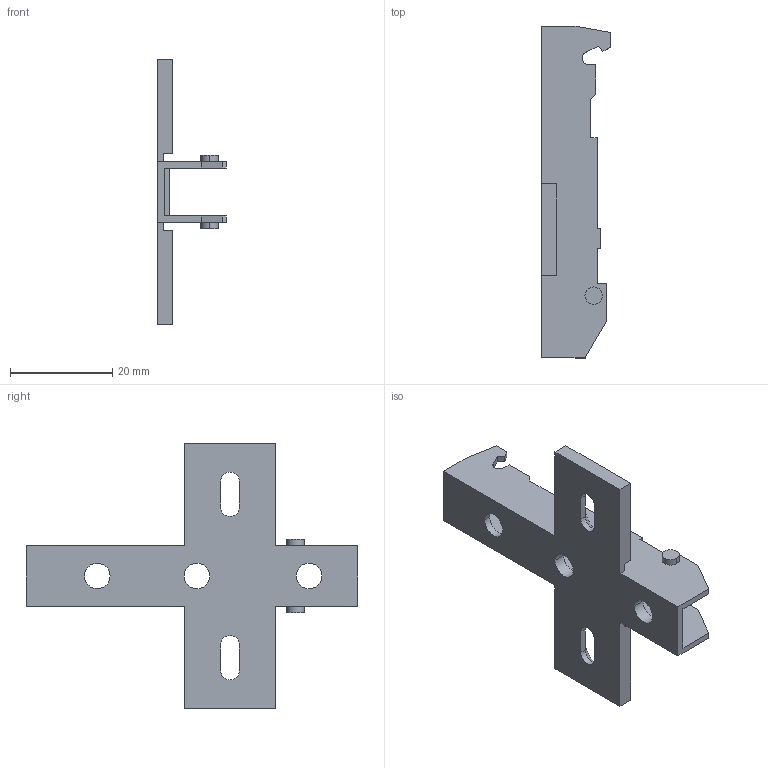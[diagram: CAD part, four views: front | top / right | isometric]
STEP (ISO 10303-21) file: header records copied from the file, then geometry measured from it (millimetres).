
FILE_DESCRIPTION (( 'STEP AP214' ), '1' );
FILE_NAME ('Eco Kreuzmontageplatte LR37_32_Spax_H03.step', '2010-11-18T10:05:41', ( 'grass' ), ( '' ), 'SwSTEP 2.0', 'SolidWorks 2010', '' );
FILE_SCHEMA (( 'AUTOMOTIVE_DESIGN' ));
Length unit declared in the file: millimetre
Products named in the file (1): Eco Kreuzmontageplatte LR37_32_Spax_H03
Bounding box: 13.5 x 65 x 52 mm (x, y, z)
Volume: 4573.1 mm3; surface area: 6046 mm2
Topology: 1 solids, 1 shells, 94 faces, 260 edges, 170 vertices
Faces by surface type: plane 70, cylinder 18, cone 6
Entity records: 3020 total; most frequent: CARTESIAN_POINT 525, ORIENTED_EDGE 520, DIRECTION 492, EDGE_CURVE 260, VECTOR 218, LINE 218, VERTEX_POINT 170, AXIS2_PLACEMENT_3D 137
